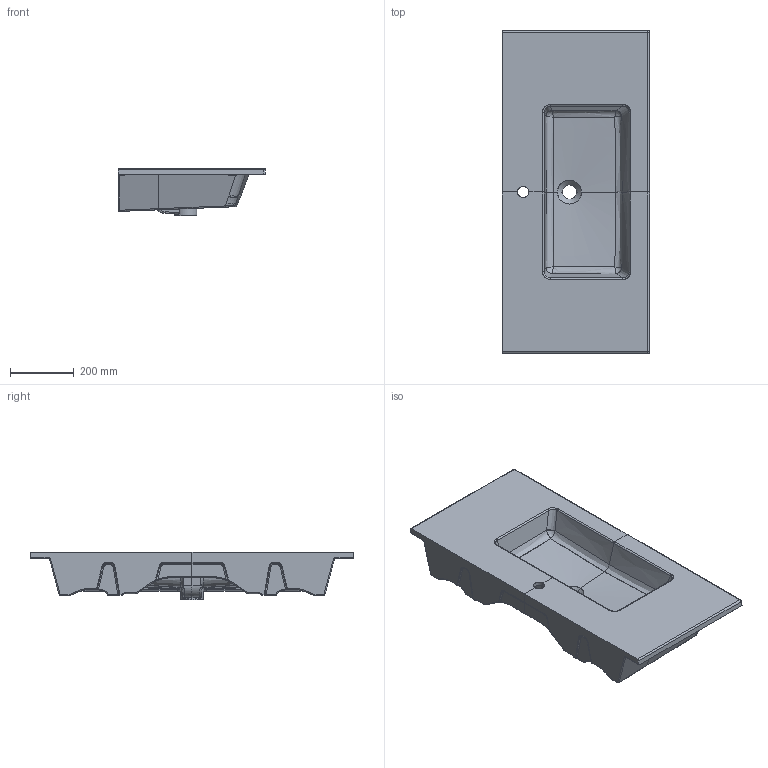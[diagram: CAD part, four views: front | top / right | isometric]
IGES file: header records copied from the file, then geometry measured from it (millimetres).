
Start section: START RECORD GO HERE.
Global section: file name: 7225.igs; native system: DASSAULT SYSTEMES CATIA V5 R19 - www.3ds.com; preprocessor: CATIA Version 5 Release 19 SP 5 ; author: gioge; organization: LAPTOP-G94B6G74; date: 20201002.171045; units: millimetre
Bounding box: 460.7 x 1013.5 x 150.1 mm (x, y, z)
Surface area: 1529559.6 mm2 (no closed solid volume)
Topology: 0 solids, 0 shells, 636 faces, 2969 edges, 2934 vertices
Faces by surface type: bspline 416, revolution 166, plane 48, extrusion 6
